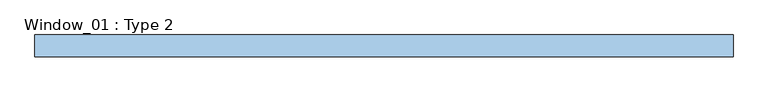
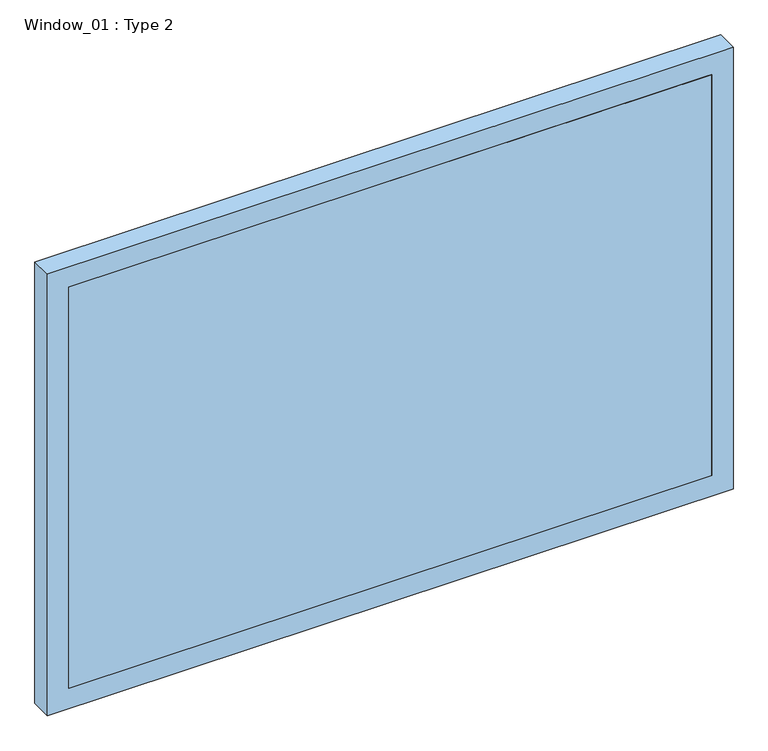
"""IFC4 building model written with IfcOpenShell, lengths in millimetres: window geometry, Window_01 : Type 2."""

from ifc_helpers import new_model, si_unit, frame, origin, place, context, project, spatial, polyline, outline, extrude, source, transform, mapped, element, save


def window_01_type_2_452e2578(model_context):
    return source(origin(), model_context, "Body", "SweptSolid", [
        extrude(outline(polyline([(750.0, -107.7988409), (750.0, -130.0), (-750.0, -130.0), (-750.0, -107.7988409), (750.0, -107.7988409)])), frame((0.0, 0.0, 964.4), z_axis=(0.0, 0.0, 1.0), x_axis=(1.0, 0.0, 0.0)), (0.0, 0.0, 1.0), 990.0),
        extrude(outline(polyline([(2004.4, 800.0), (2004.4, -800.0), (914.4, -800.0), (914.4, 800.0), (2004.4, 800.0)]), holes=[polyline([(1954.4, -750.0), (1954.4, 750.0), (964.4, 750.0), (964.4, -750.0), (1954.4, -750.0)])]), frame((0.0, -130.0, 0.0), z_axis=(0.0, 1.0, 0.0), x_axis=(0.0, 0.0, 1.0)), (0.0, 0.0, 1.0), 50.0),
    ])


if __name__ == "__main__":
    model = new_model("IFC4")
    model_context = context("Model", 3, world=origin())
    ifc_project = project(units=[si_unit("LENGTHUNIT", "METRE", prefix="MILLI")], contexts=[model_context])
    site = spatial("IfcSite", under=ifc_project)
    building = spatial("IfcBuilding", under=site)
    placement = place(None, origin())
    window_01_type_2_shape = window_01_type_2_452e2578(model_context)
    element("IfcWindow", 1, ObjectType="Window_01 : Type 2", at=placement, inside=building, context=model_context, shape_type="MappedRepresentation", body=[
        mapped(window_01_type_2_shape, transform((0.0, 0.0, 0.0), x_axis=(1.0, 0.0, 0.0), y_axis=(0.0, 1.0, 0.0), z_axis=(0.0, 0.0, 1.0))),
    ])
    save(model, "model.ifc")
